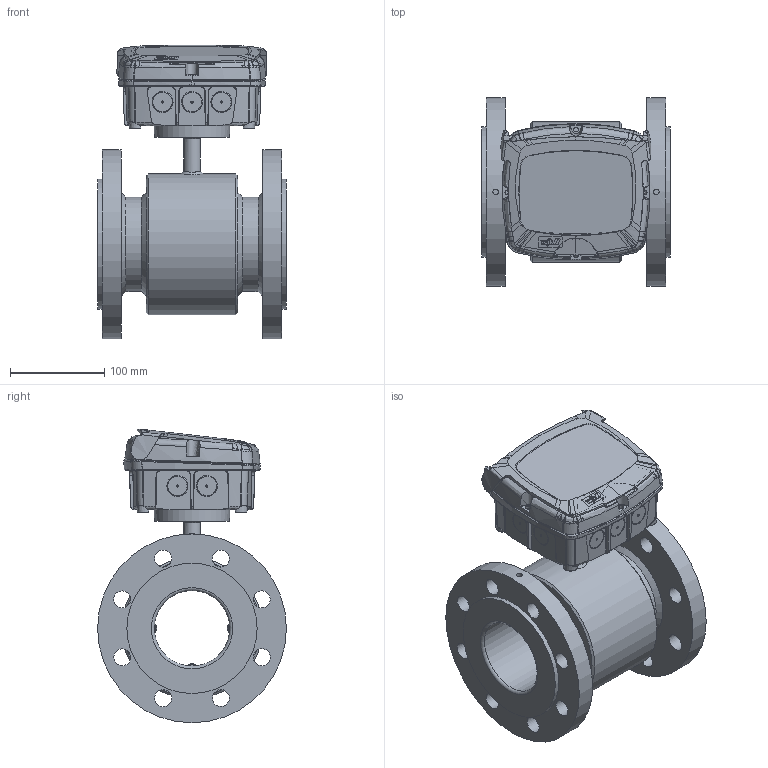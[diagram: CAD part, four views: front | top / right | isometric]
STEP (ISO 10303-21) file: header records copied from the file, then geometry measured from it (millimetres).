
FILE_DESCRIPTION((''),'2;1');
FILE_NAME('C:\Users\Claus\Dropbox\Projects 2011 - 2012\MJK Automation AS\DN 80 - DIN EN-1095-1.stp','2014-10-24T15:18:20',('Claus'),(''),'Autodesk Inventor 2013','Autodesk Inventor 2013','');
FILE_SCHEMA(('AUTOMOTIVE_DESIGN { 1 0 10303 214 1 1 1 1 }'));
Length unit declared in the file: millimetre
Products named in the file (7): DN 80 - DIN EN-1095-1; FC_MagFlux_assembly_r1; CH Bund ml; FC Top rev 06.04; CH 03.02; Electrode group DN15 - DN32
Assembly tree (8 placements, depth 3):
  DN 80 - DIN EN-1095-1
    DN 80 - DIN EN-1095-1
    FC_MagFlux_assembly_r1
      CH Bund ml
      FC Top rev 06.04
      CH 03.02
    Electrode group DN15 - DN32  x3
Bounding box: 200 x 200 x 310.84 mm (x, y, z)
Volume: 2815042.6 mm3; surface area: 518850.3 mm2
Topology: 10 solids, 10 shells, 2935 faces, 7994 edges, 5203 vertices
Faces by surface type: bspline 1752, plane 810, cylinder 210, cone 123, torus 25, revolution 9, sphere 6
Full cylindrical faces by diameter (mm): 2.5 x3, 3 x6, 4 x1, 6 x2, 6.5 x4, 7.042 x4, 8 x3, 8.048 x4, 12.072 x4, 15 x1, 18 x17, 18.108 x1, 64 x1, 80 x1, 100 x2, 138 x2, 149 x1, 200 x2
Entity records: 234060 total; most frequent: CARTESIAN_POINT 171564, ORIENTED_EDGE 15496, DIRECTION 7757, EDGE_CURVE 7748, VERTEX_POINT 5141, EDGE_LOOP 3273, VECTOR 3112, LINE 3112
